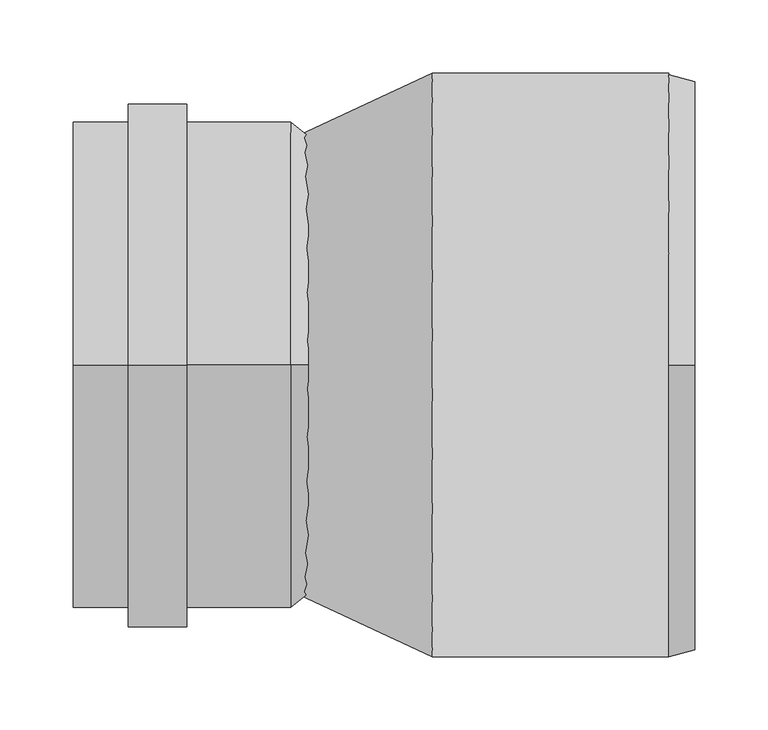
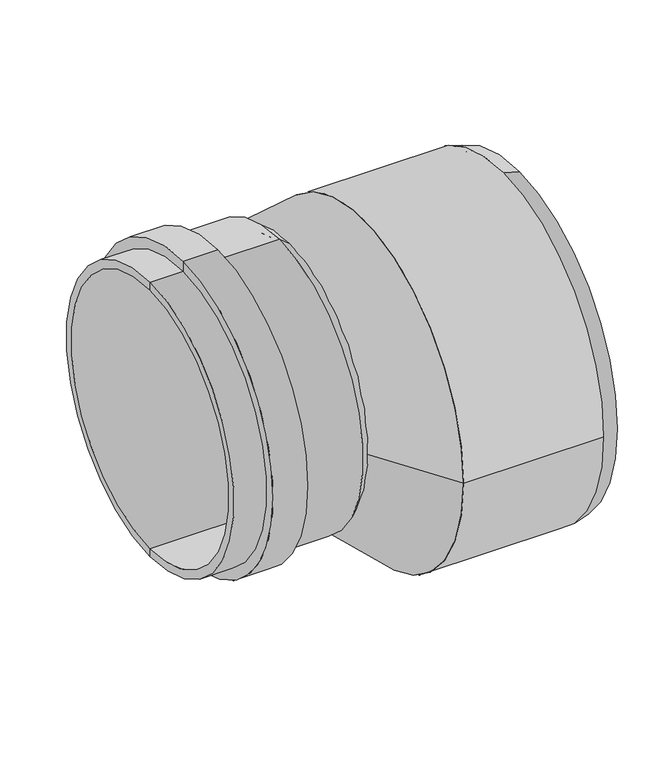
"""IFC4 building model written with IfcOpenShell, lengths in millimetres: pipe fitting geometry, OSMA_KG2000_PPKGR : Redukce nesouosá dlouhá."""

import ifcopenshell
import ifcopenshell.guid

model = None  # the IFC model being written
_history = None  # IfcOwnerHistory: only IFC2X3 demands one
_inside = {}  # id of a spatial element -> (the spatial element, [elements in it])
_under = {}  # id of a project, library or spatial element -> (it, [spatial elements below it])
_declared = {}  # id of a project -> (the project, [libraries it declares])
_typed = {}  # id of a type object -> (the type object, [elements of that type])
_made_of = {}  # id of a material, layer set ... -> (it, [elements and type objects made of it])


def new_model(schema):
    """Start an empty IFC model of exactly this schema.

    Asked for "IFC4X3", IfcOpenShell would pick the latest addendum, in which some entities
    have other attributes; the version numbers below select the first issue.
    IFC2X3 requires an IfcOwnerHistory on every rooted entity: one is made here for all.
    """
    global model, _history
    if schema == "IFC4X3":
        model = ifcopenshell.file(schema_version=(4, 3, 0, 0))
    else:
        model = ifcopenshell.file(schema=schema)
    _inside.clear()
    _under.clear()
    _declared.clear()
    _typed.clear()
    _made_of.clear()
    _history = None
    if model.schema == "IFC2X3":
        org = make("IfcOrganization", Name="unknown")
        user = make(
            "IfcPersonAndOrganization",
            ThePerson=make("IfcPerson", FamilyName="unknown"),
            TheOrganization=org,
        )
        app = make(
            "IfcApplication",
            ApplicationDeveloper=org,
            Version="unknown",
            ApplicationFullName="unknown",
            ApplicationIdentifier="unknown",
        )
        _history = make(
            "IfcOwnerHistory",
            OwningUser=user,
            OwningApplication=app,
            ChangeAction="ADDED",
            CreationDate=0,
        )
    return model


def make(cls, **values):
    """One entity of the class cls with the attributes given. An attribute that is None is left unset."""
    return model.create_entity(
        cls, **{name: value for name, value in values.items() if value is not None}
    )


def rooted(cls, **values):
    """An entity with a GlobalId (a new one), such as an element, a storey or a relation."""
    return make(cls, GlobalId=ifcopenshell.guid.new(), OwnerHistory=_history, **values)


def si_unit(unit_type, name, prefix=None):
    """IfcSIUnit, for example si_unit("LENGTHUNIT", "METRE", prefix="MILLI")."""
    return make("IfcSIUnit", UnitType=unit_type, Prefix=prefix, Name=name)


def assignment(units):
    """IfcUnitAssignment: the units of a project."""
    return None if units is None else make("IfcUnitAssignment", Units=units)


def point(xyz):
    """IfcCartesianPoint."""
    return None if xyz is None else make("IfcCartesianPoint", Coordinates=xyz)


def direction(xyz):
    """IfcDirection."""
    return None if xyz is None else make("IfcDirection", DirectionRatios=xyz)


def frame(location, z_axis=None, x_axis=None):
    """IfcAxis2Placement3D, a coordinate frame: its origin and axes. An axis left out is left unset."""
    return make(
        "IfcAxis2Placement3D",
        Location=point(location),
        Axis=direction(z_axis),
        RefDirection=direction(x_axis),
    )


def origin():
    """The frame at (0, 0, 0) with its axes left unset."""
    return frame((0.0, 0.0, 0.0))


def place(relative_to, where):
    """IfcLocalPlacement: puts the frame where relative to a parent placement (None: the world)."""
    return make(
        "IfcLocalPlacement", PlacementRelTo=relative_to, RelativePlacement=where
    )


def context(
    kind, dimensions, precision=None, world=None, true_north=None, identifier=None
):
    """IfcGeometricRepresentationContext, for example the 3D "Model" context."""
    return make(
        "IfcGeometricRepresentationContext",
        ContextIdentifier=identifier,
        ContextType=kind,
        CoordinateSpaceDimension=dimensions,
        Precision=precision,
        WorldCoordinateSystem=world,
        TrueNorth=true_north,
    )


def project(units=None, contexts=None):
    """IfcProject with its units and contexts."""
    return rooted(
        "IfcProject",
        Name="project",
        RepresentationContexts=contexts,
        UnitsInContext=assignment(units),
    )


def spatial(cls, under=None, at=None, **own):
    """A site, building, storey or space (cls), placed at a placement, below another one or the project."""
    s = rooted(cls, ObjectPlacement=at, **own)
    if under is not None:
        _under.setdefault(under.id(), (under, []))[1].append(s)
    return s


def polyline(points):
    """IfcPolyline through the points."""
    return make("IfcPolyline", Points=[point(p) for p in points])


def circle_curve(where, radius):
    """IfcCircle in the frame where."""
    return make("IfcCircle", Position=where, Radius=radius)


def shape(context_of_items, identifier, shape_type, items):
    """IfcShapeRepresentation: the items that make up one representation, for example the "Body"."""
    return make(
        "IfcShapeRepresentation",
        ContextOfItems=context_of_items,
        RepresentationIdentifier=identifier,
        RepresentationType=shape_type,
        Items=items,
    )


def source(mapping_origin, context_of_items, identifier, shape_type, items):
    """IfcRepresentationMap: a shape defined once, which mapped items show again and again."""
    return make(
        "IfcRepresentationMap",
        MappingOrigin=mapping_origin,
        MappedRepresentation=shape(context_of_items, identifier, shape_type, items),
    )


def transform(
    local_origin,
    x_axis=None,
    y_axis=None,
    z_axis=None,
    scale=None,
    scale2=None,
    scale3=None,
    uniform=True,
):
    """IfcCartesianTransformationOperator3D, or its non-uniform kind. x_axis, y_axis, z_axis: its Axis1, 2, 3."""
    if uniform:
        return make(
            "IfcCartesianTransformationOperator3D",
            Axis1=direction(x_axis),
            Axis2=direction(y_axis),
            LocalOrigin=point(local_origin),
            Scale=scale,
            Axis3=direction(z_axis),
        )
    return make(
        "IfcCartesianTransformationOperator3DnonUniform",
        Axis1=direction(x_axis),
        Axis2=direction(y_axis),
        LocalOrigin=point(local_origin),
        Scale=scale,
        Axis3=direction(z_axis),
        Scale2=scale2,
        Scale3=scale3,
    )


def mapped(mapping_source, mapping_target):
    """IfcMappedItem: shows the shape of a source again, moved by a transform."""
    return make(
        "IfcMappedItem", MappingSource=mapping_source, MappingTarget=mapping_target
    )


def made_of(thing, what):
    """Note that an element or type object is made of a material, layer set ...; save() writes the relation."""
    if what is not None:
        _made_of.setdefault(what.id(), (what, []))[1].append(thing)
    return thing


def element(
    cls,
    number,
    at=None,
    inside=None,
    cuts=None,
    type_object=None,
    material=None,
    context=None,
    identifier="Body",
    shape_type=None,
    held_by="IfcProductDefinitionShape",
    body=None,
    shapes=None,
    **own,
):
    """One element of the class cls, such as IfcWall. Its Tag is "e" and its number.

    at: its placement. inside: the storey or other place that contains it. cuts: it is an
    opening in that element (IfcRelVoidsElement). A single representation is given by context,
    identifier, shape_type and body (its items); several are given by shapes. held_by: the class
    of the entity that holds the representations. save() writes the other relations.
    """
    e = rooted(cls, Tag="e%d" % number, ObjectPlacement=at, **own)
    if body is not None:
        shapes = [shape(context, identifier, shape_type, body)]
    if shapes is not None:
        e.Representation = make(held_by, Representations=shapes)
    if inside is not None:
        _inside.setdefault(inside.id(), (inside, []))[1].append(e)
    if cuts is not None:
        rooted(
            "IfcRelVoidsElement", RelatingBuildingElement=cuts, RelatedOpeningElement=e
        )
    if type_object is not None:
        _typed.setdefault(type_object.id(), (type_object, []))[1].append(e)
    return made_of(e, material)


def aggregate(whole, parts):
    """IfcRelAggregates: a whole, such as a stair, and the parts it consists of."""
    return rooted("IfcRelAggregates", RelatingObject=whole, RelatedObjects=parts)


def save(model, path):
    """Write the relations noted so far, then the file.

    IfcRelAggregates (storeys below a building ...), IfcRelContainedInSpatialStructure (elements
    in a storey), IfcRelDefinesByType, IfcRelAssociatesMaterial and IfcRelDeclares: one each for
    every whole, place, type object, material and project.
    """
    for whole, parts in _under.values():
        aggregate(whole, parts)
    for where, things in _inside.values():
        rooted(
            "IfcRelContainedInSpatialStructure",
            RelatedElements=things,
            RelatingStructure=where,
        )
    for kind, things in _typed.values():
        rooted("IfcRelDefinesByType", RelatedObjects=things, RelatingType=kind)
    for what, things in _made_of.values():
        rooted("IfcRelAssociatesMaterial", RelatedObjects=things, RelatingMaterial=what)
    for by, libraries in _declared.values():
        rooted("IfcRelDeclares", RelatingContext=by, RelatedDefinitions=libraries)
    model.write(path)


def plane_surface(at):
    """IfcPlane: the flat surface through the origin of the frame at, square to its z axis."""
    return make("IfcPlane", Position=at)


def cylinder_surface(at, radius):
    """IfcCylindricalSurface: all points at the distance radius from the z axis of the frame at."""
    return make("IfcCylindricalSurface", Position=at, Radius=radius)


def revolved_surface(curve, axis_point, axis_direction):
    """IfcSurfaceOfRevolution: the curve turned about the line through axis_point along axis_direction."""
    return make(
        "IfcSurfaceOfRevolution",
        SweptCurve=make("IfcArbitraryOpenProfileDef", ProfileType="CURVE", Curve=curve),
        AxisPosition=make("IfcAxis1Placement", Location=point(axis_point), Axis=direction(axis_direction)),
    )


def spline_surface(u_degree, v_degree, points, u_multiplicities, v_multiplicities, u_knots, v_knots, weights=None):
    """IfcBSplineSurfaceWithKnots; with weights, IfcRationalBSplineSurfaceWithKnots. points: one row for each step in u."""
    own = dict(
        UDegree=u_degree,
        VDegree=v_degree,
        ControlPointsList=[[point(p) for p in row] for row in points],
        SurfaceForm="UNSPECIFIED",
        UClosed=False,
        VClosed=False,
        SelfIntersect=False,
        UMultiplicities=u_multiplicities,
        VMultiplicities=v_multiplicities,
        UKnots=u_knots,
        VKnots=v_knots,
        KnotSpec="UNSPECIFIED",
    )
    if weights is None:
        return make("IfcBSplineSurfaceWithKnots", **own)
    return make("IfcRationalBSplineSurfaceWithKnots", WeightsData=weights, **own)


def advanced_brep(points, edges, surfaces, faces):
    """IfcAdvancedBrep: a solid bounded by faces that lie on surfaces and meet in shared edges.

    An edge is (start, end): straight between two places in points (the first is 0);
    or (start, end, curve); or (start, end, curve, False) where it runs against its curve.
    A face is (place in surfaces, loops), or (place, loops, False) where it looks against
    its surface's normal. A loop lists edges by number (the first is 1), with a minus sign
    where the edge is run from its end to its start. The first loop is the outer one.
    """
    corners = [point(p) for p in points]
    vertices = [make("IfcVertexPoint", VertexGeometry=c) for c in corners]
    made = []
    for start, end, *more in edges:
        made.append(
            make(
                "IfcEdgeCurve",
                EdgeStart=vertices[start],
                EdgeEnd=vertices[end],
                EdgeGeometry=more[0] if more else make("IfcPolyline", Points=[corners[start], corners[end]]),
                SameSense=more[1] if len(more) > 1 else True,
            )
        )
    hull = []
    for where, loops, *sense in faces:
        bounds = []
        for j, loop in enumerate(loops):
            ring = [make("IfcOrientedEdge", EdgeElement=made[abs(k) - 1], Orientation=k > 0) for k in loop]
            bounds.append(
                make(
                    "IfcFaceOuterBound" if j == 0 else "IfcFaceBound",
                    Bound=make("IfcEdgeLoop", EdgeList=ring),
                    Orientation=True,
                )
            )
        hull.append(make("IfcAdvancedFace", Bounds=bounds, FaceSurface=surfaces[where], SameSense=sense[0] if sense else True))
    return make("IfcAdvancedBrep", Outer=make("IfcClosedShell", CfsFaces=hull))


def pipe_fitting_fbfbc0ed(model_context):
    return source(origin(), model_context, "Body", "AdvancedBrep", [
        advanced_brep(
        [(-6.0, 0.0, 157.5), (-6.0, 0.0, -157.5), (-155.0, 0.0, -157.5), (-155.0, 0.0, 157.5), (-77.0, 0.0, 167.2), (-77.0, 0.0, -167.2), (-6.0, 0.0, -167.2), (-6.0, 0.0, 167.2), (-77.0, 0.0, -179.5), (-77.0, 0.0, 179.5), (-117.0, 0.0, -179.5), (-117.0, 0.0, 179.5), (-117.0, 0.0, -167.2), (-117.0, 0.0, 167.2), (-155.0, 0.0, -167.2), (-155.0, 0.0, 167.2), (6.0, 0.0, 147.8), (6.0, 0.0, -147.8), (6.0, 0.0, 157.5), (6.0, 0.0, -157.5)],
        [
            (0, 1, circle_curve(frame((-6.0, 0.0, 0.0), z_axis=(1.0, 0.0, 0.0), x_axis=(0.0, 0.0, -1.0)), 157.5)),
            (1, 2),
            (2, 3, circle_curve(frame((-155.0, 0.0, 0.0), z_axis=(-1.0, 0.0, 0.0), x_axis=(0.0, 0.0, -1.0)), 157.5)),
            (3, 0),
            (1, 0, circle_curve(frame((-6.0, 0.0, 0.0), z_axis=(1.0, 0.0, 0.0), x_axis=(0.0, 0.0, -1.0)), 157.5)),
            (3, 2, circle_curve(frame((-155.0, 0.0, 0.0), z_axis=(-1.0, 0.0, 0.0), x_axis=(0.0, 0.0, -1.0)), 157.5)),
            (4, 5, circle_curve(frame((-77.0, 0.0, 0.0), z_axis=(1.0, 0.0, 0.0), x_axis=(0.0, 0.0, -1.0)), 167.2)),
            (5, 6),
            (6, 7, circle_curve(frame((-6.0, 0.0, 0.0), z_axis=(-1.0, 0.0, 0.0), x_axis=(0.0, 0.0, -1.0)), 167.2)),
            (7, 4),
            (8, 9, circle_curve(frame((-77.0, 0.0, 0.0), z_axis=(1.0, 0.0, 0.0), x_axis=(0.0, 0.0, -1.0)), 179.5)),
            (9, 4),
            (4, 5, circle_curve(frame((-77.0, 0.0, 0.0), z_axis=(-1.0, 0.0, 0.0), x_axis=(0.0, 0.0, -1.0)), 167.2)),
            (5, 8),
            (10, 11, circle_curve(frame((-117.0, 0.0, 0.0), z_axis=(1.0, 0.0, 0.0), x_axis=(0.0, 0.0, -1.0)), 179.5)),
            (11, 9),
            (8, 10),
            (12, 13, circle_curve(frame((-117.0, 0.0, 0.0), z_axis=(1.0, 0.0, 0.0), x_axis=(0.0, 0.0, -1.0)), 167.2)),
            (13, 11),
            (10, 12),
            (14, 15, circle_curve(frame((-155.0, 0.0, 0.0), z_axis=(1.0, 0.0, 0.0), x_axis=(0.0, 0.0, -1.0)), 167.2)),
            (15, 13),
            (12, 14),
            (16, 17, circle_curve(frame((6.0, 0.0, 0.0), z_axis=(1.0, 0.0, 0.0), x_axis=(0.0, 0.0, -1.0)), 147.8)),
            (17, 1),
            (0, 16),
            (17, 16, circle_curve(frame((6.0, 0.0, 0.0), z_axis=(1.0, 0.0, 0.0), x_axis=(0.0, 0.0, -1.0)), 147.8)),
            (18, 19, circle_curve(frame((6.0, 0.0, 0.0), z_axis=(1.0, 0.0, 0.0), x_axis=(0.0, 0.0, -1.0)), 157.5)),
            (19, 17),
            (16, 18),
            (19, 18, circle_curve(frame((6.0, 0.0, 0.0), z_axis=(1.0, 0.0, 0.0), x_axis=(0.0, 0.0, -1.0)), 157.5)),
            (6, 19),
            (18, 7),
            (6, 7, circle_curve(frame((-6.0, 0.0, 0.0), z_axis=(1.0, 0.0, 0.0), x_axis=(0.0, 0.0, -1.0)), 167.2)),
            (9, 8, circle_curve(frame((-77.0, 0.0, 0.0), z_axis=(1.0, 0.0, 0.0), x_axis=(0.0, 0.0, -1.0)), 179.5)),
            (11, 10, circle_curve(frame((-117.0, 0.0, 0.0), z_axis=(1.0, 0.0, 0.0), x_axis=(0.0, 0.0, -1.0)), 179.5)),
            (13, 12, circle_curve(frame((-117.0, 0.0, 0.0), z_axis=(1.0, 0.0, 0.0), x_axis=(0.0, 0.0, -1.0)), 167.2)),
            (15, 14, circle_curve(frame((-155.0, 0.0, 0.0), z_axis=(1.0, 0.0, 0.0), x_axis=(0.0, 0.0, -1.0)), 167.2)),
            (2, 14),
            (15, 3),
        ],
        [
            revolved_surface(polyline([(-155.0, 0.0, -157.5), (-6.0, 0.0, -157.5)]), (-2824.4742198, 0.0, 0.0), (-1.0, 0.0, 0.0)),
            cylinder_surface(frame((-2824.4742198, 0.0, 0.0), z_axis=(-1.0, 0.0, 0.0), x_axis=(0.0, 0.0, -1.0)), 167.2),
            plane_surface(frame((-77.0, 0.0, 0.0), z_axis=(1.0, 0.0, 0.0), x_axis=(0.0, 0.0, -1.0))),
            cylinder_surface(frame((-2824.4742198, 0.0, 0.0), z_axis=(-1.0, 0.0, 0.0), x_axis=(0.0, 0.0, -1.0)), 179.5),
            plane_surface(frame((-117.0, 0.0, 0.0), z_axis=(-1.0, 0.0, 0.0), x_axis=(0.0, 0.0, -1.0))),
            revolved_surface(polyline([(-6.0, 0.0, -157.5), (6.0, 0.0, -147.8)]), (-2824.4742198, 0.0, 0.0), (-1.0, 0.0, 0.0)),
            plane_surface(frame((6.0, 0.0, 0.0), z_axis=(1.0, 0.0, 0.0), x_axis=(0.0, 0.0, -1.0))),
            revolved_surface(polyline([(6.0, 0.0, -157.5), (-6.0, 0.0, -167.2)]), (-2824.4742198, 0.0, 0.0), (-1.0, 0.0, 0.0)),
            plane_surface(frame((-155.0, 0.0, 0.0), z_axis=(-1.0, 0.0, 0.0), x_axis=(0.0, 0.0, -1.0))),
        ],
        [
            (0, [[1, 2, 3, 4]]),
            (0, [[5, -4, 6, -2]]),
            (1, [[7, 8, 9, 10]]),
            (2, [[11, 12, 13, 14]]),
            (3, [[15, 16, -11, 17]]),
            (4, [[18, 19, -15, 20]]),
            (1, [[21, 22, -18, 23]]),
            (5, [[24, 25, -1, 26]]),
            (5, [[27, -26, -5, -25]]),
            (6, [[28, 29, -24, 30]]),
            (6, [[31, -30, -27, -29]]),
            (7, [[-9, 32, -28, 33]]),
            (7, [[34, -33, -31, -32]]),
            (1, [[-13, -10, -34, -8]]),
            (2, [[35, -14, -7, -12]]),
            (3, [[36, -17, -35, -16]]),
            (4, [[37, -20, -36, -19]]),
            (1, [[38, -23, -37, -22]]),
            (8, [[-3, 39, -38, 40]]),
            (8, [[-6, -40, -21, -39]]),
        ],
    ),
        advanced_brep(
        [(271.0, 0.0, -237.6769145), (271.0, 0.0, 152.6769145), (271.0, 0.0, 145.2), (271.0, 0.0, -230.2), (253.0, 0.0, -242.5), (253.0, 200.0, -42.5), (253.0, 0.0, 157.5), (253.0, -200.0, -42.5), (253.0, 0.0, 145.2), (253.0, 0.0, -230.2), (91.0, 200.0, -42.5), (91.0, -200.0, -42.5)],
        [
            (0, 1, circle_curve(frame((271.0, 0.0, -42.5), z_axis=(1.0, 0.0, 0.0), x_axis=(0.0, 0.0, 1.0)), 195.1769145)),
            (1, 2),
            (2, 3, circle_curve(frame((271.0, 0.0, -42.5), z_axis=(-1.0, 0.0, 0.0), x_axis=(0.0, 0.0, 1.0)), 187.7)),
            (3, 0),
            (1, 0, circle_curve(frame((271.0, 0.0, -42.5), z_axis=(1.0, 0.0, 0.0), x_axis=(0.0, 0.0, 1.0)), 195.1769145)),
            (3, 2, circle_curve(frame((271.0, 0.0, -42.5), z_axis=(-1.0, 0.0, 0.0), x_axis=(0.0, 0.0, 1.0)), 187.7)),
            (0, 4),
            (4, 5, circle_curve(frame((253.0, 0.0, -42.5), z_axis=(1.0, 0.0, 0.0), x_axis=(0.0, 0.0, 1.0)), 200.0)),
            (5, 6, circle_curve(frame((253.0, 0.0, -42.5), z_axis=(1.0, 0.0, 0.0), x_axis=(0.0, 0.0, 1.0)), 200.0)),
            (6, 1),
            (6, 7, circle_curve(frame((253.0, 0.0, -42.5), z_axis=(1.0, 0.0, 0.0), x_axis=(0.0, 0.0, 1.0)), 200.0)),
            (7, 4, circle_curve(frame((253.0, 0.0, -42.5), z_axis=(1.0, 0.0, 0.0), x_axis=(0.0, 0.0, 1.0)), 200.0)),
            (2, 8),
            (8, 9, circle_curve(frame((253.0, 0.0, -42.5), z_axis=(-1.0, 0.0, 0.0), x_axis=(0.0, 0.0, 1.0)), 187.7)),
            (9, 3),
            (9, 8, circle_curve(frame((253.0, 0.0, -42.5), z_axis=(-1.0, 0.0, 0.0), x_axis=(0.0, 0.0, 1.0)), 187.7)),
            (10, 11, circle_curve(frame((91.0, 0.0, -42.5), z_axis=(-1.0, 0.0, 0.0), x_axis=(0.0, -1.0, 0.0)), 200.0)),
            (11, 10, circle_curve(frame((91.0, 0.0, -42.5), z_axis=(-1.0, 0.0, 0.0), x_axis=(0.0, -1.0, 0.0)), 200.0)),
            (11, 7),
            (5, 10),
        ],
        [
            plane_surface(frame((271.0, 0.0, -42.5), z_axis=(1.0, 0.0, 0.0), x_axis=(0.0, 0.0, 1.0))),
            revolved_surface(polyline([(271.0, 0.0, 152.6769145), (253.0, 0.0, 157.5)]), (109.4287569, 0.0, -42.5), (-1.0, 0.0, 0.0)),
            revolved_surface(polyline([(253.0, 0.0, 145.2), (271.0, 0.0, 145.2)]), (109.4287569, 0.0, -42.5), (-1.0, 0.0, 0.0)),
            plane_surface(frame((253.0, 0.0, 0.0), z_axis=(1.0, 0.0, 0.0), x_axis=(0.0, 0.0, 1.0))),
            plane_surface(frame((91.0, 0.0, 0.0), z_axis=(-1.0, 0.0, 0.0), x_axis=(0.0, 0.0, 1.0))),
            cylinder_surface(frame((253.0, 0.0, -42.5), z_axis=(1.0, 0.0, 0.0), x_axis=(0.0, -1.0, 0.0)), 200.0),
        ],
        [
            (0, [[1, 2, 3, 4]]),
            (0, [[-2, 5, -4, 6]]),
            (1, [[-1, 7, 8, 9, 10]]),
            (1, [[-5, -10, 11, 12, -7]]),
            (2, [[-3, 13, 14, 15]]),
            (2, [[-6, -15, 16, -13]]),
            (3, [[-14, -16]]),
            (4, [[17, 18]]),
            (5, [[-18, 19, -11, -9, 20]]),
            (5, [[-17, -20, -8, -12, -19]]),
        ],
    ),
        advanced_brep(
        [(0.0, 157.5, 0.0), (0.0, -157.5, 0.0), (91.0, 200.0, -42.5), (91.0, -200.0, -42.5)],
        [
            (0, 1, circle_curve(frame((0.0, 0.0, 0.0), z_axis=(-1.0, 0.0, 0.0), x_axis=(0.0, -1.0, 0.0)), 157.5)),
            (1, 0, circle_curve(frame((0.0, 0.0, 0.0), z_axis=(-1.0, 0.0, 0.0), x_axis=(0.0, -1.0, 0.0)), 157.5)),
            (2, 3, circle_curve(frame((91.0, 0.0, -42.5), z_axis=(1.0, 0.0, 0.0), x_axis=(0.0, -1.0, 0.0)), 200.0)),
            (3, 2, circle_curve(frame((91.0, 0.0, -42.5), z_axis=(1.0, 0.0, 0.0), x_axis=(0.0, -1.0, 0.0)), 200.0)),
            (3, 1),
            (0, 2),
        ],
        [
            plane_surface(frame((0.0, 0.0, 0.0), z_axis=(-1.0, 0.0, 0.0), x_axis=(0.0, 0.0, -1.0))),
            plane_surface(frame((91.0, 0.0, -42.5), z_axis=(1.0, 0.0, 0.0), x_axis=(0.0, 0.0, -1.0))),
            spline_surface(2, 1, [[(91.0, 200.0, -42.5), (0.0, 157.5, 0.0)], [(91.0, 200.0, -242.5), (0.0, 157.5, -157.5)], [(91.0, 0.0, -242.5), (0.0, 0.0, -157.5)], [(91.0, -200.0, -242.5), (0.0, -157.5, -157.5)], [(91.0, -200.0, -42.5), (0.0, -157.5, 0.0)]], [3, 2, 3], [2, 2], [0.0, 1.0, 2.0], [0.0, 1.0], weights=[[1.0, 1.0], [0.7071067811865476, 0.7071067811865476], [1.0, 1.0], [0.7071067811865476, 0.7071067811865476], [1.0, 1.0]]),
            spline_surface(2, 1, [[(91.0, -200.0, -42.5), (0.0, -157.5, 0.0)], [(91.0, -200.0, 157.5), (0.0, -157.5, 157.5)], [(91.0, 0.0, 157.5), (0.0, 0.0, 157.5)], [(91.0, 200.0, 157.5), (0.0, 157.5, 157.5)], [(91.0, 200.0, -42.5), (0.0, 157.5, 0.0)]], [3, 2, 3], [2, 2], [0.0, 1.0, 2.0], [0.0, 1.0], weights=[[1.0, 1.0], [0.7071067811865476, 0.7071067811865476], [1.0, 1.0], [0.7071067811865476, 0.7071067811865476], [1.0, 1.0]]),
        ],
        [
            (0, [[1, 2]]),
            (1, [[3, 4]]),
            (2, [[-4, 5, -1, 6]]),
            (3, [[-3, -6, -2, -5]]),
        ],
    ),
    ])


if __name__ == "__main__":
    model = new_model("IFC4")
    model_context = context("Model", 3, world=origin())
    ifc_project = project(units=[si_unit("LENGTHUNIT", "METRE", prefix="MILLI")], contexts=[model_context])
    site = spatial("IfcSite", under=ifc_project)
    building = spatial("IfcBuilding", under=site)
    placement = place(None, origin())
    pipe_fitting_shape = pipe_fitting_fbfbc0ed(model_context)
    element("IfcPipeFitting", 1, ObjectType="OSMA_KG2000_PPKGR : Redukce nesouosá dlouhá", at=placement, inside=building, context=model_context, shape_type="MappedRepresentation", body=[
        mapped(pipe_fitting_shape, transform((0.0, 0.0, 0.0), x_axis=(1.0, 0.0, 0.0), y_axis=(0.0, 1.0, 0.0), z_axis=(0.0, 0.0, 1.0))),
    ])
    save(model, "model.ifc")
